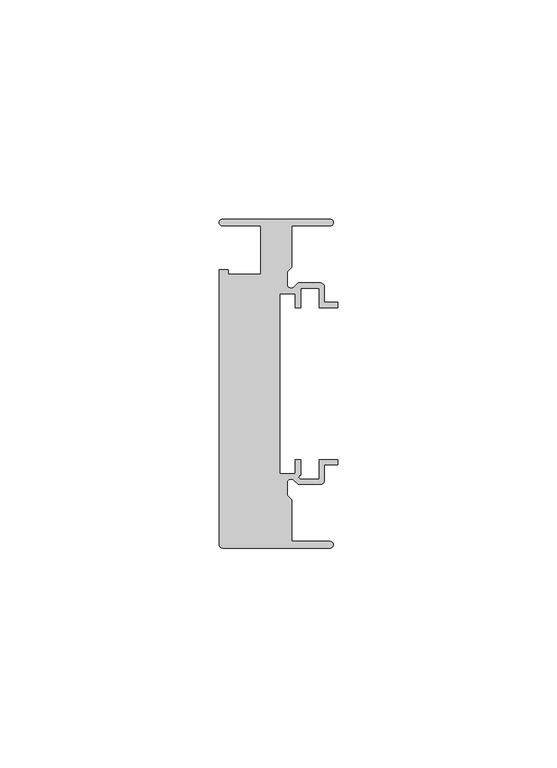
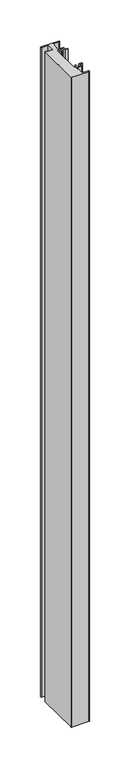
"""IFC4 building model written with IfcOpenShell, lengths in millimetres: member geometry, Прямоугольный импост : 5-AMG-1-Профиль 26Х75 Верх П."""

from ifc_helpers import new_model, si_unit, point, frame, frame_2d, origin, place, context, project, spatial, polyline, circle_curve, trimmed, segment, composite_curve, outline, extrude, source, transform, mapped, element, save


def member_fb2a0350(model_context):
    return source(origin(), model_context, "Body", "SweptSolid", [
        extrude(outline(composite_curve([segment(trimmed(circle_curve(frame_2d((-1.7, 36.75)), 0.75), [point((-1.7, 37.5))], [point((-1.7, 36.0))], False, "CARTESIAN"), True, "CONTINUOUS"), segment(polyline([(-1.7, 36.0), (-10.5, 36.0), (-10.5, 26.5029437), (-11.5, 25.5029437), (-11.5, 22.6727922)]), True, "CONTINUOUS"), segment(trimmed(circle_curve(frame_2d((-10.6, 22.6727922)), 0.9), [point((-11.5, 22.6727922))], [point((-9.9636039, 22.0363961))], True, "CARTESIAN"), True, "CONTINUOUS"), segment(polyline([(-9.9636039, 22.0363961), (-9.0, 23.0), (-4.0, 23.0)]), True, "CONTINUOUS"), segment(trimmed(circle_curve(frame_2d((-4.0, 22.0)), 1.0), [point((-4.0, 23.0))], [point((-3.0, 22.0))], False, "CARTESIAN"), True, "CONTINUOUS"), segment(polyline([(-3.0, 22.0), (-3.0, 18.55), (0.0, 18.55), (0.0, 17.35), (-4.2, 17.35), (-4.2, 21.8), (-8.45, 21.8), (-8.45, 17.35), (-9.65, 17.35), (-9.65, 20.55), (-13.15, 20.55), (-13.15, -20.55), (-9.65, -20.55), (-9.65, -17.35), (-8.45, -17.35), (-8.45, -20.8470563)]), True, "CONTINUOUS"), segment(trimmed(circle_curve(frame_2d((-8.3343131, -21.3314262)), 0.4979937), [point((-8.45, -20.8470563))], [point((-8.5029437, -21.8))], True, "CARTESIAN"), True, "CONTINUOUS"), segment(polyline([(-8.5029437, -21.8), (-4.2, -21.8), (-4.2, -17.35), (0.0, -17.35), (0.0, -18.55), (-3.0, -18.55), (-3.0, -22.0)]), True, "CONTINUOUS"), segment(trimmed(circle_curve(frame_2d((-4.0, -22.0)), 1.0), [point((-3.0, -22.0))], [point((-4.0, -23.0))], False, "CARTESIAN"), True, "CONTINUOUS"), segment(polyline([(-4.0, -23.0), (-9.0, -23.0), (-9.9636039, -22.0363961)]), True, "CONTINUOUS"), segment(trimmed(circle_curve(frame_2d((-10.6, -22.6727922)), 0.9), [point((-9.9636039, -22.0363961))], [point((-11.5, -22.6727922))], True, "CARTESIAN"), True, "CONTINUOUS"), segment(polyline([(-11.5, -22.6727922), (-11.5, -25.5029437), (-10.5, -26.5029437), (-10.5, -36.0), (-1.7, -36.0)]), True, "CONTINUOUS"), segment(trimmed(circle_curve(frame_2d((-1.7, -36.75)), 0.75), [point((-1.7, -36.0))], [point((-1.7, -37.5))], False, "CARTESIAN"), True, "CONTINUOUS"), segment(polyline([(-1.7, -37.5), (-26.25, -37.5)]), True, "CONTINUOUS"), segment(trimmed(circle_curve(frame_2d((-26.2240507, -36.7244847)), 0.7759493), [point((-26.25, -37.5))], [point((-27.0, -36.7244847))], False, "CARTESIAN"), True, "CONTINUOUS"), segment(polyline([(-27.0, -36.7244847), (-27.0, 26.0), (-24.9359877, 26.0), (-24.9359877, 25.0), (-17.5, 25.0), (-17.5, 36.0), (-26.25, 36.0)]), True, "CONTINUOUS"), segment(trimmed(circle_curve(frame_2d((-26.25, 36.75)), 0.75), [point((-26.25, 36.0))], [point((-26.25, 37.5))], False, "CARTESIAN"), True, "CONTINUOUS"), segment(polyline([(-26.25, 37.5), (-1.7, 37.5)]), True, "CONTINUOUS")], self_intersect=False)), frame((0.0, 0.0, -973.0), z_axis=(0.0, 0.0, 1.0), x_axis=(1.0, 0.0, 0.0)), (0.0, 0.0, 1.0), 973.0),
    ])


if __name__ == "__main__":
    model = new_model("IFC4")
    model_context = context("Model", 3, world=origin())
    ifc_project = project(units=[si_unit("LENGTHUNIT", "METRE", prefix="MILLI")], contexts=[model_context])
    site = spatial("IfcSite", under=ifc_project)
    building = spatial("IfcBuilding", under=site)
    placement = place(None, origin())
    member_shape = member_fb2a0350(model_context)
    element("IfcMember", 1, ObjectType="Прямоугольный импост : 5-AMG-1-Профиль 26Х75 Верх П", at=placement, inside=building, context=model_context, shape_type="MappedRepresentation", body=[
        mapped(member_shape, transform((0.0, 0.0, 0.0), x_axis=(1.0, 0.0, 0.0), y_axis=(0.0, 1.0, 0.0), z_axis=(0.0, 0.0, 1.0))),
    ])
    save(model, "model.ifc")
